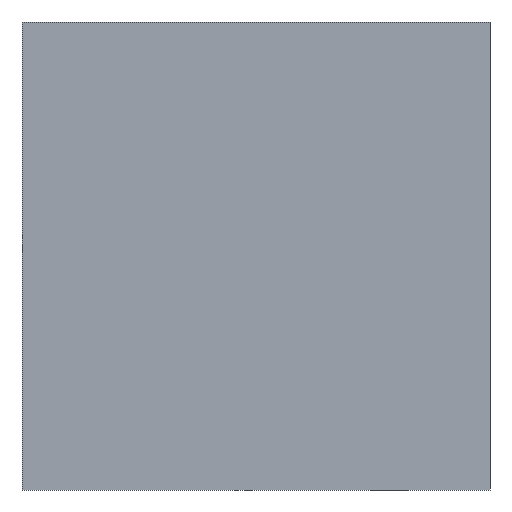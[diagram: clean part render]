
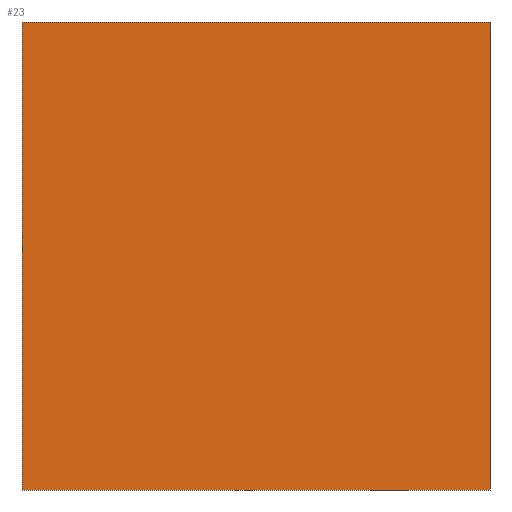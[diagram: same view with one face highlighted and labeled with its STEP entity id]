
A CAD part, front view. The second image highlights one B-rep face of the part: STEP entity #23.
In plain terms, the highlighted planar face has unit normal (0, -1, 0).
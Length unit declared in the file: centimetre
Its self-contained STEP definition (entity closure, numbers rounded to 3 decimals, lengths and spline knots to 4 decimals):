
#3 = ORIENTED_EDGE ( 'NONE', *, *, #63, .T. ) ;
#12 = ORIENTED_EDGE ( 'NONE', *, *, #396, .F. ) ;
#13 = FACE_OUTER_BOUND ( 'NONE', #44, .T. ) ;
#17 = VERTEX_POINT ( 'NONE', #119 ) ;
#20 = VECTOR ( 'NONE', #347, 100. ) ;
#23 = ADVANCED_FACE ( 'NONE', ( #13 ), #308, .F. ) ;
#43 = VECTOR ( 'NONE', #400, 100. ) ;
#44 = EDGE_LOOP ( 'NONE', ( #316, #12, #325, #3 ) ) ;
#55 = VERTEX_POINT ( 'NONE', #107 ) ;
#63 = EDGE_CURVE ( 'NONE', #55, #177, #375, .T. ) ;
#78 = DIRECTION ( 'NONE',  ( 0., 0., -1. ) ) ;
#107 = CARTESIAN_POINT ( 'NONE',  ( 0., 0., 1000. ) ) ;
#110 = CARTESIAN_POINT ( 'NONE',  ( 0., 0., 1000. ) ) ;
#114 = CARTESIAN_POINT ( 'NONE',  ( 1000., 0., 1000. ) ) ;
#119 = CARTESIAN_POINT ( 'NONE',  ( 1000., 0., 1000. ) ) ;
#145 = EDGE_CURVE ( 'NONE', #177, #389, #163, .T. ) ;
#151 = CARTESIAN_POINT ( 'NONE',  ( 0., 0., 1000. ) ) ;
#163 = LINE ( 'NONE', #257, #221 ) ;
#177 = VERTEX_POINT ( 'NONE', #239 ) ;
#202 = EDGE_CURVE ( 'NONE', #55, #17, #406, .T. ) ;
#219 = DIRECTION ( 'NONE',  ( 0., 1., 0. ) ) ;
#221 = VECTOR ( 'NONE', #371, 100. ) ;
#231 = CARTESIAN_POINT ( 'NONE',  ( 0., 0., 1000. ) ) ;
#239 = CARTESIAN_POINT ( 'NONE',  ( 0., 0., 0. ) ) ;
#257 = CARTESIAN_POINT ( 'NONE',  ( 0., 0., 0. ) ) ;
#267 = CARTESIAN_POINT ( 'NONE',  ( 1000., 0., 0. ) ) ;
#300 = LINE ( 'NONE', #114, #356 ) ;
#306 = DIRECTION ( 'NONE',  ( 0., 0., 1. ) ) ;
#308 = PLANE ( 'NONE',  #373 ) ;
#316 = ORIENTED_EDGE ( 'NONE', *, *, #145, .T. ) ;
#325 = ORIENTED_EDGE ( 'NONE', *, *, #202, .F. ) ;
#347 = DIRECTION ( 'NONE',  ( 0., 0., -1. ) ) ;
#356 = VECTOR ( 'NONE', #78, 100. ) ;
#371 = DIRECTION ( 'NONE',  ( 1., 0., 0. ) ) ;
#373 = AXIS2_PLACEMENT_3D ( 'NONE', #151, #219, #306 ) ;
#375 = LINE ( 'NONE', #231, #20 ) ;
#389 = VERTEX_POINT ( 'NONE', #267 ) ;
#396 = EDGE_CURVE ( 'NONE', #17, #389, #300, .T. ) ;
#400 = DIRECTION ( 'NONE',  ( 1., 0., 0. ) ) ;
#406 = LINE ( 'NONE', #110, #43 ) ;
